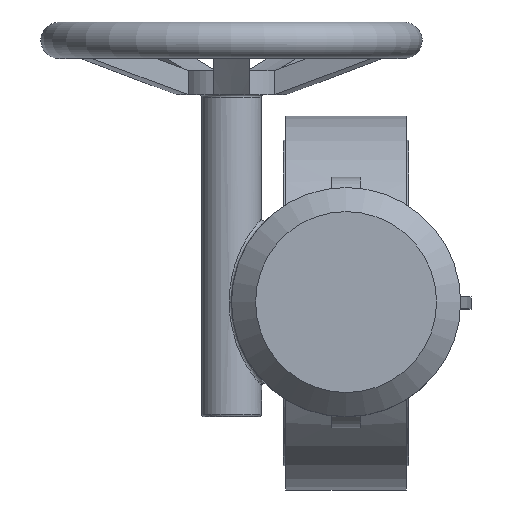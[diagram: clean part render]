
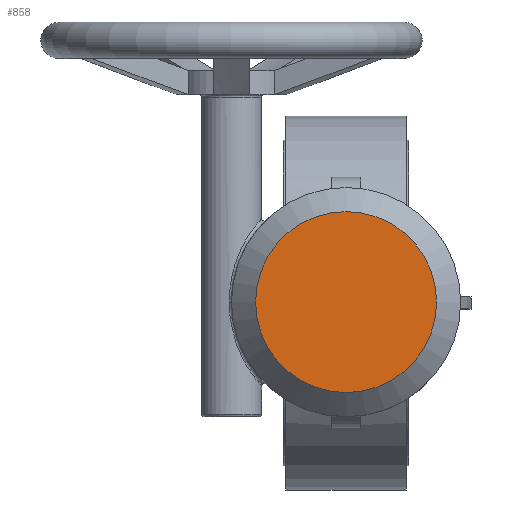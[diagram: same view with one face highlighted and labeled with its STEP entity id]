
A CAD part, top view. The second image highlights one B-rep face of the part: STEP entity #858.
In plain terms, the highlighted planar face has unit normal (0, 0, 1).
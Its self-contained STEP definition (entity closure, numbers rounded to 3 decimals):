
#858=ADVANCED_FACE('',(#2656),#2658,.T.);
#2656=FACE_BOUND('',#2657,.T.);
#2657=EDGE_LOOP('',(#3401));
#2658=PLANE('',#2659);
#2659=AXIS2_PLACEMENT_3D('',#2660,#2661,#2662);
#2660=CARTESIAN_POINT('',(0.,0.,222.));
#2661=DIRECTION('',(0.,0.,1.));
#2662=DIRECTION('',(-1.,0.,0.));
#3401=ORIENTED_EDGE('',*,*,#3809,.T.);
#3809=EDGE_CURVE('',#4243,#4243,#4244,.T.);
#4243=VERTEX_POINT('',#5956);
#4244=CIRCLE('',#5957,37.5);
#5956=CARTESIAN_POINT('',(-37.5,0.,222.));
#5957=AXIS2_PLACEMENT_3D('',#5958,#5959,#5960);
#5958=CARTESIAN_POINT('',(0.,0.,222.));
#5959=DIRECTION('',(0.,0.,1.));
#5960=DIRECTION('',(-1.,0.,0.));
